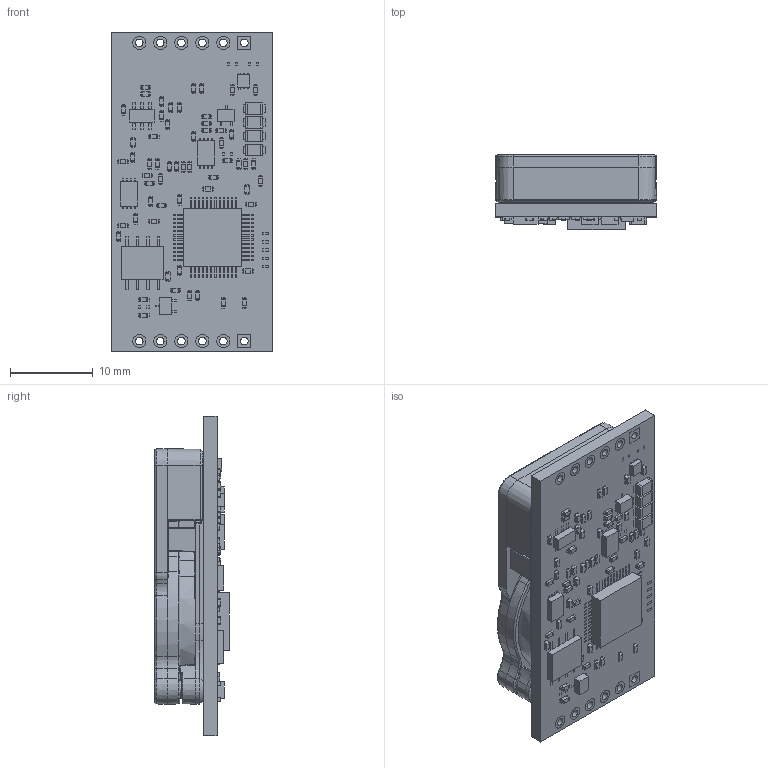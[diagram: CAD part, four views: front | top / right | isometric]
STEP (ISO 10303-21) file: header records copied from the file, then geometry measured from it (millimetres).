
FILE_DESCRIPTION (( 'STEP AP214' ), '1' );
FILE_NAME ('LP3-ASM-001 Customer model.STEP', '2020-08-19T08:32:35', ( '' ), ( '' ), 'SwSTEP 2.0', 'SolidWorks 2015', '' );
FILE_SCHEMA (( 'AUTOMOTIVE_DESIGN' ));
Length unit declared in the file: millimetre
Products named in the file (1): LP3-ASM-001 Customer model
Bounding box: 19.5 x 9.05 x 38.62 mm (x, y, z)
Volume: 4109.7 mm3; surface area: 3767.6 mm2
Topology: 1 solids, 1 shells, 1727 faces, 4648 edges, 3025 vertices
Faces by surface type: plane 1139, cylinder 205, bspline 128, torus 115, cone 85, sphere 55
Full cylindrical faces by diameter (mm): 0.9 x12, 18 x1
Entity records: 69602 total; most frequent: CARTESIAN_POINT 14224, ORIENTED_EDGE 9186, DIRECTION 8211, EDGE_CURVE 4593, LINE 3433, VECTOR 3433, VERTEX_POINT 3016, AXIS2_PLACEMENT_3D 2389
